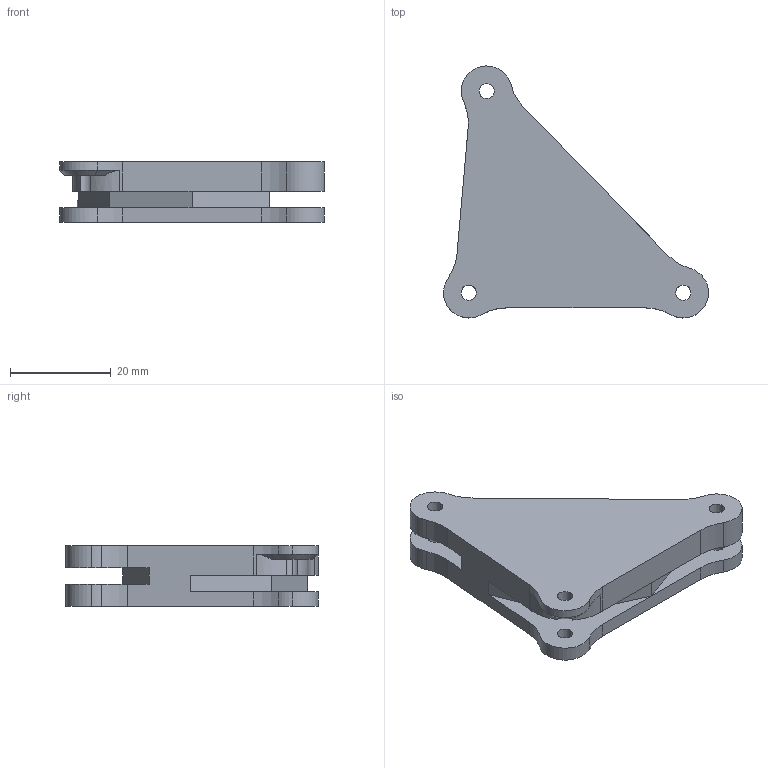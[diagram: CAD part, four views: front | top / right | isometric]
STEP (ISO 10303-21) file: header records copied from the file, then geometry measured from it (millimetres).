
FILE_DESCRIPTION (( 'STEP AP203' ), '1' );
FILE_NAME ('piece triengle haut decoupe 3 mm.STEP', '2023-05-23T11:07:05', ( '' ), ( '' ), 'SwSTEP 2.0', 'SolidWorks 2022', '' );
FILE_SCHEMA (( 'CONFIG_CONTROL_DESIGN' ));
Length unit declared in the file: millimetre
Products named in the file (1): piece triengle haut decoupe 3 mm
Bounding box: 52.49 x 49.93 x 12 mm (x, y, z)
Volume: 14505.9 mm3; surface area: 5833 mm2
Topology: 1 solids, 1 shells, 57 faces, 162 edges, 106 vertices
Faces by surface type: cylinder 36, plane 18, cone 3
Entity records: 1998 total; most frequent: DIRECTION 355, CARTESIAN_POINT 340, ORIENTED_EDGE 324, EDGE_CURVE 162, AXIS2_PLACEMENT_3D 137, VERTEX_POINT 106, LINE 81, VECTOR 81
